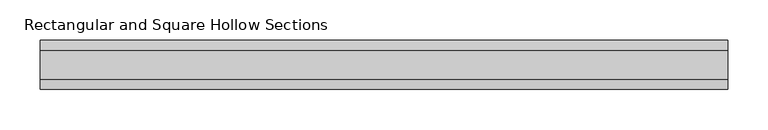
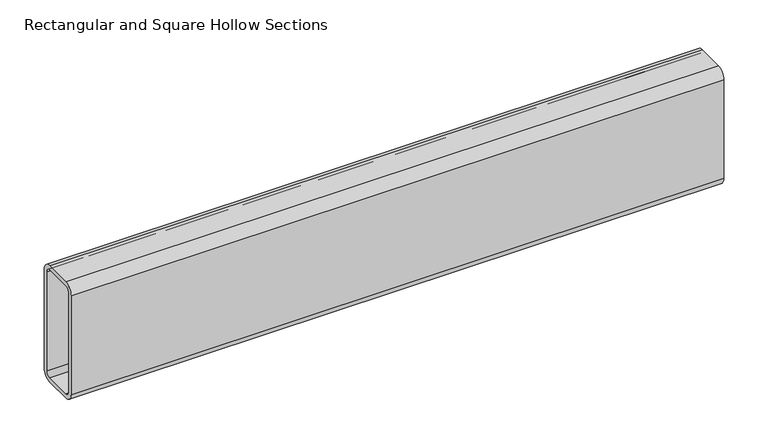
"""IFC4 building model written with IfcOpenShell, lengths in millimetres: beam geometry, Rectangular and Square Hollow Sections : TREC160x60x6."""

from ifc_helpers import new_model, si_unit, point, frame, frame_2d, origin, place, context, project, spatial, polyline, circle_curve, trimmed, segment, composite_curve, outline, extrude, source, transform, mapped, element, save


def rectangular_and_square_hollow_sections_4273bd4a(model_context):
    return source(origin(), model_context, "Body", "SweptSolid", [
        extrude(outline(composite_curve([segment(polyline([(30.0, 68.0), (30.0, -68.0)]), True, "CONTINUOUS"), segment(trimmed(circle_curve(frame_2d((18.0, -68.0)), 12.0), [point((30.0, -68.0))], [point((18.0, -80.0))], False, "CARTESIAN"), True, "CONTINUOUS"), segment(polyline([(18.0, -80.0), (-18.0, -80.0)]), True, "CONTINUOUS"), segment(trimmed(circle_curve(frame_2d((-18.0, -68.0)), 12.0), [point((-18.0, -80.0))], [point((-30.0, -68.0))], False, "CARTESIAN"), True, "CONTINUOUS"), segment(polyline([(-30.0, -68.0), (-30.0, 68.0)]), True, "CONTINUOUS"), segment(trimmed(circle_curve(frame_2d((-18.0, 68.0)), 12.0), [point((-30.0, 68.0))], [point((-18.0, 80.0))], False, "CARTESIAN"), True, "CONTINUOUS"), segment(polyline([(-18.0, 80.0), (18.0, 80.0)]), True, "CONTINUOUS"), segment(trimmed(circle_curve(frame_2d((18.0, 68.0)), 12.0), [point((18.0, 80.0))], [point((30.0, 68.0))], False, "CARTESIAN"), True, "CONTINUOUS")], self_intersect=False), holes=[composite_curve([segment(trimmed(circle_curve(frame_2d((-18.0, 68.0)), 6.0), [point((-18.0, 74.0))], [point((-24.0, 68.0))], True, "CARTESIAN"), True, "CONTINUOUS"), segment(polyline([(-24.0, 68.0), (-24.0, -68.0)]), True, "CONTINUOUS"), segment(trimmed(circle_curve(frame_2d((-18.0, -68.0)), 6.0), [point((-24.0, -68.0))], [point((-18.0, -74.0))], True, "CARTESIAN"), True, "CONTINUOUS"), segment(polyline([(-18.0, -74.0), (18.0, -74.0)]), True, "CONTINUOUS"), segment(trimmed(circle_curve(frame_2d((18.0, -68.0)), 6.0), [point((18.0, -74.0))], [point((24.0, -68.0))], True, "CARTESIAN"), True, "CONTINUOUS"), segment(polyline([(24.0, -68.0), (24.0, 68.0)]), True, "CONTINUOUS"), segment(trimmed(circle_curve(frame_2d((18.0, 68.0)), 6.0), [point((24.0, 68.0))], [point((18.0, 74.0))], True, "CARTESIAN"), True, "CONTINUOUS"), segment(polyline([(18.0, 74.0), (-18.0, 74.0)]), True, "CONTINUOUS")], self_intersect=False)]), frame((-401.5, 0.0, 0.0), z_axis=(1.0, 0.0, 0.0), x_axis=(0.0, 1.0, 0.0)), (0.0, 0.0, 1.0), 849.0),
    ])


if __name__ == "__main__":
    model = new_model("IFC4")
    model_context = context("Model", 3, world=origin())
    ifc_project = project(units=[si_unit("LENGTHUNIT", "METRE", prefix="MILLI")], contexts=[model_context])
    site = spatial("IfcSite", under=ifc_project)
    building = spatial("IfcBuilding", under=site)
    placement = place(None, origin())
    rectangular_and_square_hollow_sections_shape = rectangular_and_square_hollow_sections_4273bd4a(model_context)
    element("IfcBeam", 1, ObjectType="Rectangular and Square Hollow Sections : TREC160x60x6", at=placement, inside=building, context=model_context, shape_type="MappedRepresentation", body=[
        mapped(rectangular_and_square_hollow_sections_shape, transform((0.0, 0.0, 0.0), x_axis=(1.0, 0.0, 0.0), y_axis=(0.0, 1.0, 0.0), z_axis=(0.0, 0.0, 1.0))),
    ])
    save(model, "model.ifc")
